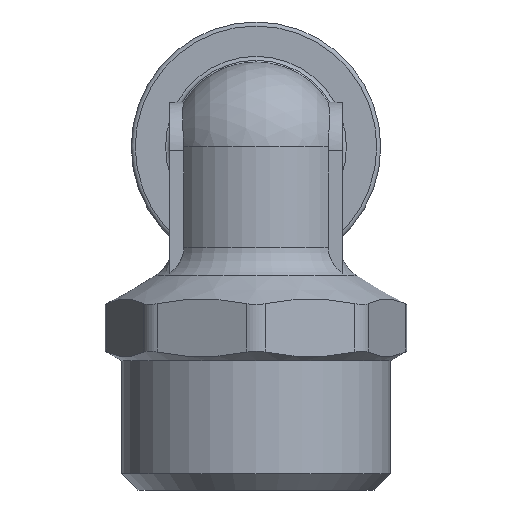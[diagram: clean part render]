
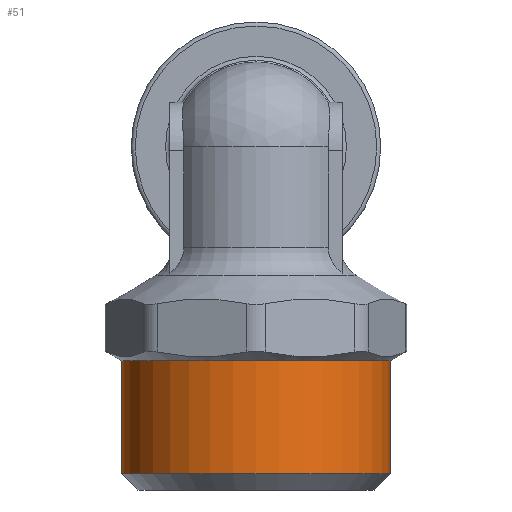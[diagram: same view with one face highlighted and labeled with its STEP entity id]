
A CAD part, front view. The second image highlights one B-rep face of the part: STEP entity #51.
In plain terms, the highlighted cylindrical face has radius 16.625 mm (diameter 33.249 mm), a full revolution.
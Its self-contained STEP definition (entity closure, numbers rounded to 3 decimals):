
#51=ADVANCED_FACE('',(#444,#446),#448,.T.);
#444=FACE_OUTER_BOUND('',#445,.T.);
#445=EDGE_LOOP('',(#3052));
#446=FACE_OUTER_BOUND('',#447,.T.);
#447=EDGE_LOOP('',(#3053));
#448=CYLINDRICAL_SURFACE('',#449,16.625);
#449=AXIS2_PLACEMENT_3D('',#450,#451,#452);
#450=CARTESIAN_POINT('',(0.,0.,-26.5));
#451=DIRECTION('',(0.,0.,-1.));
#452=DIRECTION('',(0.,1.,0.));
#3052=ORIENTED_EDGE('',*,*,#5187,.T.);
#3053=ORIENTED_EDGE('',*,*,#5184,.F.);
#5184=EDGE_CURVE('',#6050,#6050,#6051,.T.);
#5187=EDGE_CURVE('',#6055,#6055,#6056,.T.);
#6050=VERTEX_POINT('',#7523);
#6051=CIRCLE('',#7524,16.625);
#6055=VERTEX_POINT('',#7537);
#6056=CIRCLE('',#7538,16.625);
#7523=CARTESIAN_POINT('',(0.,16.625,-40.5));
#7524=AXIS2_PLACEMENT_3D('',#7525,#7526,#7527);
#7525=CARTESIAN_POINT('',(0.,0.,-40.5));
#7526=DIRECTION('',(0.,0.,-1.));
#7527=DIRECTION('',(0.,1.,0.));
#7537=CARTESIAN_POINT('',(0.,16.625,-26.5));
#7538=AXIS2_PLACEMENT_3D('',#7539,#7540,#7541);
#7539=CARTESIAN_POINT('',(0.,0.,-26.5));
#7540=DIRECTION('',(0.,0.,-1.));
#7541=DIRECTION('',(0.,1.,0.));
